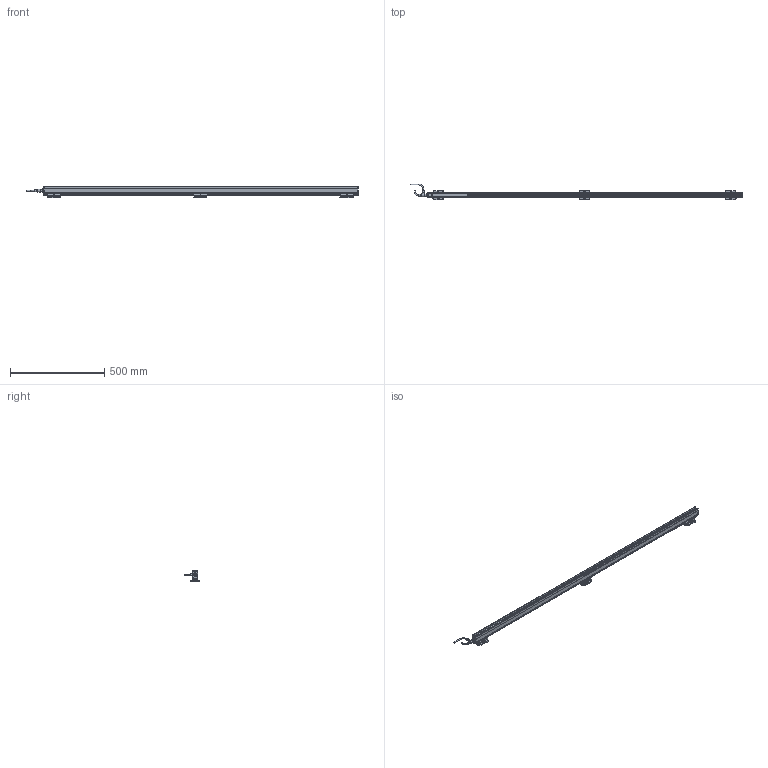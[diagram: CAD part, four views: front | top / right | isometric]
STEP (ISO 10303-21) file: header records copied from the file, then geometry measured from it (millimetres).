
FILE_DESCRIPTION(('Bauteilbeschreibung','HiCAD-Model','HiCAD-STEP-TRANSLATION','Bauteilbeschreibung'),'2;1');
FILE_NAME('PERFORMAXIQEASY_1590-1680_3D.STP','2014-03-05T11:45:41+00:00',('Konstrukteur'),('Konstrukteur Firma GmbH'),' HiCAD 2011, Step 1600.0 ','HiCAD 2011','confidential');
FILE_SCHEMA(('AUTOMOTIVE_DESIGN { 1 2 10303 214 0 1 1 1 }'));
Products named in the file (43): PERFORMAXIQEASY_1590_1680_3D; A_PERFORMAX IQ EASY 1590_1680; A_PERFORMAX IQ EASY SPEED; A_CAP DE; A_CAP CE_5; GROUP; PIN; GROUP0; PIN0; LED_2C_3MM; LED02C03MM; A519020315_CONNECTOR APPLIANCE; A_INSERT; A_CONTACTS; A_HOUSING; A_PROFILE; A_POTTING; A532000100_BRACKET BARS_ MOUNT; A_SIDE PIECE; A0SIDE0PIECE; A_BRACKET SMALL; A_SLIDE PIECE; A5320001000BRACKET0BARS00MOUNT; A0SIDE0PIECE0; A0SIDE0PIECE1; A0BRACKET0SMALL; A0SLIDE0PIECE; A5320001000BRACKET0BARS00MOUNT0; A0SIDE0PIECE2; A0SIDE0PIECE3; A0BRACKET0SMALL0; A0SLIDE0PIECE0; A_CONNECTOR STRAIGHT; EXTRUDED SOLID_0; DRAAD GEBOGEN; REVOLVED SOLID_1; REVOLVED SOLID_3; A_CONNECTOR ANGLED; REVOLVED0SOLID01; EXTRUDED0SOLID00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
Assembly tree (42 placements, depth 5):
  PERFORMAXIQEASY_1590_1680_3D
    A_PERFORMAX IQ EASY 1590_1680
      A_PERFORMAX IQ EASY SPEED
        A_CAP DE
        A_CAP CE_5
        GROUP
          PIN
        GROUP0
          PIN0
        LED_2C_3MM
        LED02C03MM
        A519020315_CONNECTOR APPLIANCE
          A_INSERT
          A_CONTACTS
          A_HOUSING
        A_PROFILE
        A_POTTING
      A532000100_BRACKET BARS_ MOUNT
        A_SIDE PIECE
        A0SIDE0PIECE
        A_BRACKET SMALL
        A_SLIDE PIECE
      A5320001000BRACKET0BARS00MOUNT
        A0SIDE0PIECE0
        A0SIDE0PIECE1
        A0BRACKET0SMALL
        A0SLIDE0PIECE
      A5320001000BRACKET0BARS00MOUNT0
        A0SIDE0PIECE2
        A0SIDE0PIECE3
        A0BRACKET0SMALL0
        A0SLIDE0PIECE0
      A_CONNECTOR STRAIGHT
        EXTRUDED SOLID_0
        DRAAD GEBOGEN
        REVOLVED SOLID_1
        REVOLVED SOLID_3
      A_CONNECTOR ANGLED
        REVOLVED0SOLID01
        EXTRUDED0SOLID00
        C_EDGE SWEEP_0
        REVOLVED SOLID_2
        REVOLVED0SOLID03
Bounding box: 1757.89 x 84.28 x 63.13 mm (x, y, z)
Volume: 1741247.2 mm3; surface area: 437015.8 mm2
Topology: 37 solids, 37 shells, 2679 faces, 6860 edges, 4096 vertices
Faces by surface type: cylinder 1117, plane 1033, sphere 167, torus 158, bspline 128, cone 76
Full cylindrical faces by diameter (mm): 0.8 x10, 1 x5, 2.387 x6, 3 x15, 3.1 x1, 4.2 x2, 5 x4, 5.5 x15, 8 x2, 8.2 x1, 8.4 x2, 8.945 x1, 9 x2, 10.2 x1, 10.5 x3, 11 x1, 12 x3, 12.8 x1, 13.8 x4, 14.5 x3
Entity records: 123325 total; most frequent: CARTESIAN_POINT 28458, DIRECTION 13337, ORIENTED_EDGE 12962, EDGE_CURVE 6481, COLOUR_RGB 6168, PRESENTATION_STYLE_ASSIGNMENT 6168, OVER_RIDING_STYLED_ITEM 6136, CURVE_STYLE 6131
